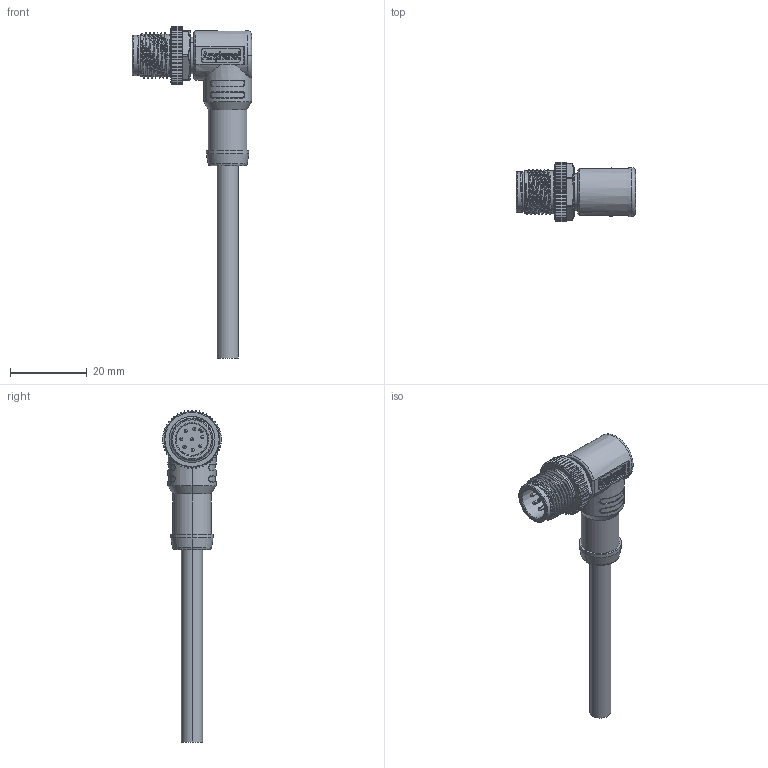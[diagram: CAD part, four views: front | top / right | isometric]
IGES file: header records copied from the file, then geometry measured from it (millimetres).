
Start section:  PTC IGES file: MSAP-08BMMM-SR8AXX.igs
Global section: file name: MSAP-08BMMM-SR8AXX.igs; native system: Creo Parametric by Parametric Technology Corporation; preprocessor: 2013050; author: ks6143; organization: Unknown; date: 20150904.131206; units: millimetre
Bounding box: 31 x 15.5 x 86.25 mm (x, y, z)
Volume: 6619.3 mm3; surface area: 4477.3 mm2
Topology: 1 solids, 3 shells, 779 faces, 1964 edges, 1223 vertices
Faces by surface type: bspline 459, revolution 280, extrusion 40
